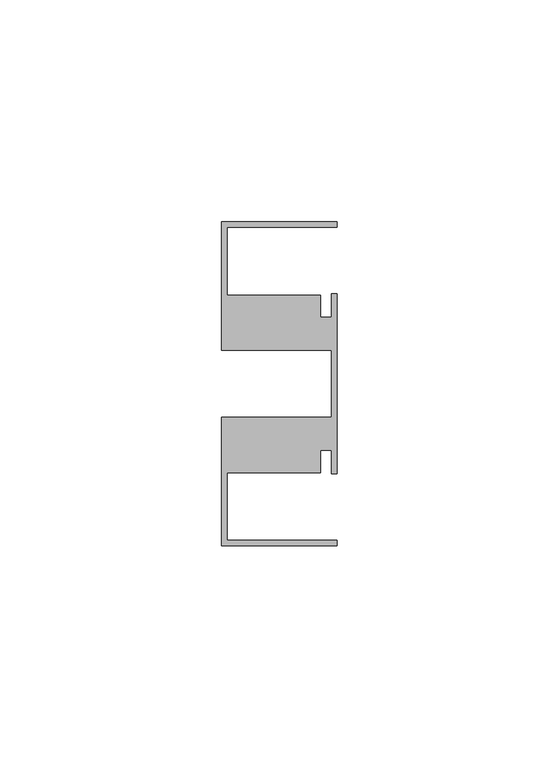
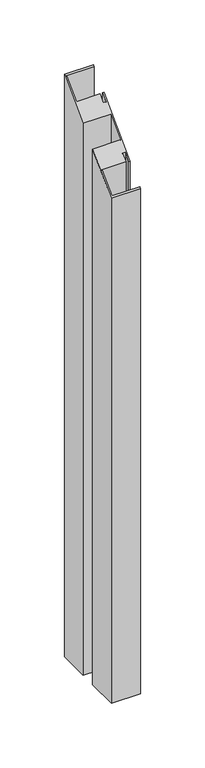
"""IFC4 building model written with IfcOpenShell, lengths in millimetres: member geometry, Прямоугольный импост : 9-AMG-1-Профиль 26Х73 Низ Л."""

import ifcopenshell
import ifcopenshell.guid

model = None  # the IFC model being written
_history = None  # IfcOwnerHistory: only IFC2X3 demands one
_inside = {}  # id of a spatial element -> (the spatial element, [elements in it])
_under = {}  # id of a project, library or spatial element -> (it, [spatial elements below it])
_declared = {}  # id of a project -> (the project, [libraries it declares])
_typed = {}  # id of a type object -> (the type object, [elements of that type])
_made_of = {}  # id of a material, layer set ... -> (it, [elements and type objects made of it])


def new_model(schema):
    """Start an empty IFC model of exactly this schema.

    Asked for "IFC4X3", IfcOpenShell would pick the latest addendum, in which some entities
    have other attributes; the version numbers below select the first issue.
    IFC2X3 requires an IfcOwnerHistory on every rooted entity: one is made here for all.
    """
    global model, _history
    if schema == "IFC4X3":
        model = ifcopenshell.file(schema_version=(4, 3, 0, 0))
    else:
        model = ifcopenshell.file(schema=schema)
    _inside.clear()
    _under.clear()
    _declared.clear()
    _typed.clear()
    _made_of.clear()
    _history = None
    if model.schema == "IFC2X3":
        org = make("IfcOrganization", Name="unknown")
        user = make(
            "IfcPersonAndOrganization",
            ThePerson=make("IfcPerson", FamilyName="unknown"),
            TheOrganization=org,
        )
        app = make(
            "IfcApplication",
            ApplicationDeveloper=org,
            Version="unknown",
            ApplicationFullName="unknown",
            ApplicationIdentifier="unknown",
        )
        _history = make(
            "IfcOwnerHistory",
            OwningUser=user,
            OwningApplication=app,
            ChangeAction="ADDED",
            CreationDate=0,
        )
    return model


def make(cls, **values):
    """One entity of the class cls with the attributes given. An attribute that is None is left unset."""
    return model.create_entity(
        cls, **{name: value for name, value in values.items() if value is not None}
    )


def rooted(cls, **values):
    """An entity with a GlobalId (a new one), such as an element, a storey or a relation."""
    return make(cls, GlobalId=ifcopenshell.guid.new(), OwnerHistory=_history, **values)


def si_unit(unit_type, name, prefix=None):
    """IfcSIUnit, for example si_unit("LENGTHUNIT", "METRE", prefix="MILLI")."""
    return make("IfcSIUnit", UnitType=unit_type, Prefix=prefix, Name=name)


def assignment(units):
    """IfcUnitAssignment: the units of a project."""
    return None if units is None else make("IfcUnitAssignment", Units=units)


def point(xyz):
    """IfcCartesianPoint."""
    return None if xyz is None else make("IfcCartesianPoint", Coordinates=xyz)


def direction(xyz):
    """IfcDirection."""
    return None if xyz is None else make("IfcDirection", DirectionRatios=xyz)


def frame(location, z_axis=None, x_axis=None):
    """IfcAxis2Placement3D, a coordinate frame: its origin and axes. An axis left out is left unset."""
    return make(
        "IfcAxis2Placement3D",
        Location=point(location),
        Axis=direction(z_axis),
        RefDirection=direction(x_axis),
    )


def origin():
    """The frame at (0, 0, 0) with its axes left unset."""
    return frame((0.0, 0.0, 0.0))


def place(relative_to, where):
    """IfcLocalPlacement: puts the frame where relative to a parent placement (None: the world)."""
    return make(
        "IfcLocalPlacement", PlacementRelTo=relative_to, RelativePlacement=where
    )


def context(
    kind, dimensions, precision=None, world=None, true_north=None, identifier=None
):
    """IfcGeometricRepresentationContext, for example the 3D "Model" context."""
    return make(
        "IfcGeometricRepresentationContext",
        ContextIdentifier=identifier,
        ContextType=kind,
        CoordinateSpaceDimension=dimensions,
        Precision=precision,
        WorldCoordinateSystem=world,
        TrueNorth=true_north,
    )


def project(units=None, contexts=None):
    """IfcProject with its units and contexts."""
    return rooted(
        "IfcProject",
        Name="project",
        RepresentationContexts=contexts,
        UnitsInContext=assignment(units),
    )


def spatial(cls, under=None, at=None, **own):
    """A site, building, storey or space (cls), placed at a placement, below another one or the project."""
    s = rooted(cls, ObjectPlacement=at, **own)
    if under is not None:
        _under.setdefault(under.id(), (under, []))[1].append(s)
    return s


def faces_of(points, faces, orient=None, outer=None):
    """IfcFace entities. A face is a list of loops; a loop is a list of indices into points, from 0.

    orient and outer hold one flag for each loop. By default every Orientation is true, the
    first loop of a face is its IfcFaceOuterBound and the others are IfcFaceBound.
    """
    made = []
    for i, loops in enumerate(faces):
        bounds = []
        for j, loop in enumerate(loops):
            is_outer = j == 0 if outer is None else outer[i][j]
            bounds.append(
                make(
                    "IfcFaceOuterBound" if is_outer else "IfcFaceBound",
                    Bound=make("IfcPolyLoop", Polygon=[points[k] for k in loop]),
                    Orientation=True if orient is None else orient[i][j],
                )
            )
        made.append(make("IfcFace", Bounds=bounds))
    return made


def faceted_brep(points, faces, orient=None, outer=None, voids=None):
    """IfcFacetedBrep: a solid bounded by flat faces; with voids (closed shells), ...WithVoids."""
    shared = [point(p) for p in points]
    hull = make("IfcClosedShell", CfsFaces=faces_of(shared, faces, orient, outer))
    if voids is None:
        return make("IfcFacetedBrep", Outer=hull)
    return make(
        "IfcFacetedBrepWithVoids",
        Outer=hull,
        Voids=[
            make(cls, CfsFaces=faces_of(shared, fs, o, b)) for cls, fs, o, b in voids
        ],
    )


def shape(context_of_items, identifier, shape_type, items):
    """IfcShapeRepresentation: the items that make up one representation, for example the "Body"."""
    return make(
        "IfcShapeRepresentation",
        ContextOfItems=context_of_items,
        RepresentationIdentifier=identifier,
        RepresentationType=shape_type,
        Items=items,
    )


def source(mapping_origin, context_of_items, identifier, shape_type, items):
    """IfcRepresentationMap: a shape defined once, which mapped items show again and again."""
    return make(
        "IfcRepresentationMap",
        MappingOrigin=mapping_origin,
        MappedRepresentation=shape(context_of_items, identifier, shape_type, items),
    )


def transform(
    local_origin,
    x_axis=None,
    y_axis=None,
    z_axis=None,
    scale=None,
    scale2=None,
    scale3=None,
    uniform=True,
):
    """IfcCartesianTransformationOperator3D, or its non-uniform kind. x_axis, y_axis, z_axis: its Axis1, 2, 3."""
    if uniform:
        return make(
            "IfcCartesianTransformationOperator3D",
            Axis1=direction(x_axis),
            Axis2=direction(y_axis),
            LocalOrigin=point(local_origin),
            Scale=scale,
            Axis3=direction(z_axis),
        )
    return make(
        "IfcCartesianTransformationOperator3DnonUniform",
        Axis1=direction(x_axis),
        Axis2=direction(y_axis),
        LocalOrigin=point(local_origin),
        Scale=scale,
        Axis3=direction(z_axis),
        Scale2=scale2,
        Scale3=scale3,
    )


def mapped(mapping_source, mapping_target):
    """IfcMappedItem: shows the shape of a source again, moved by a transform."""
    return make(
        "IfcMappedItem", MappingSource=mapping_source, MappingTarget=mapping_target
    )


def made_of(thing, what):
    """Note that an element or type object is made of a material, layer set ...; save() writes the relation."""
    if what is not None:
        _made_of.setdefault(what.id(), (what, []))[1].append(thing)
    return thing


def element(
    cls,
    number,
    at=None,
    inside=None,
    cuts=None,
    type_object=None,
    material=None,
    context=None,
    identifier="Body",
    shape_type=None,
    held_by="IfcProductDefinitionShape",
    body=None,
    shapes=None,
    **own,
):
    """One element of the class cls, such as IfcWall. Its Tag is "e" and its number.

    at: its placement. inside: the storey or other place that contains it. cuts: it is an
    opening in that element (IfcRelVoidsElement). A single representation is given by context,
    identifier, shape_type and body (its items); several are given by shapes. held_by: the class
    of the entity that holds the representations. save() writes the other relations.
    """
    e = rooted(cls, Tag="e%d" % number, ObjectPlacement=at, **own)
    if body is not None:
        shapes = [shape(context, identifier, shape_type, body)]
    if shapes is not None:
        e.Representation = make(held_by, Representations=shapes)
    if inside is not None:
        _inside.setdefault(inside.id(), (inside, []))[1].append(e)
    if cuts is not None:
        rooted(
            "IfcRelVoidsElement", RelatingBuildingElement=cuts, RelatedOpeningElement=e
        )
    if type_object is not None:
        _typed.setdefault(type_object.id(), (type_object, []))[1].append(e)
    return made_of(e, material)


def aggregate(whole, parts):
    """IfcRelAggregates: a whole, such as a stair, and the parts it consists of."""
    return rooted("IfcRelAggregates", RelatingObject=whole, RelatedObjects=parts)


def save(model, path):
    """Write the relations noted so far, then the file.

    IfcRelAggregates (storeys below a building ...), IfcRelContainedInSpatialStructure (elements
    in a storey), IfcRelDefinesByType, IfcRelAssociatesMaterial and IfcRelDeclares: one each for
    every whole, place, type object, material and project.
    """
    for whole, parts in _under.values():
        aggregate(whole, parts)
    for where, things in _inside.values():
        rooted(
            "IfcRelContainedInSpatialStructure",
            RelatedElements=things,
            RelatingStructure=where,
        )
    for kind, things in _typed.values():
        rooted("IfcRelDefinesByType", RelatedObjects=things, RelatingType=kind)
    for what, things in _made_of.values():
        rooted("IfcRelAssociatesMaterial", RelatedObjects=things, RelatingMaterial=what)
    for by, libraries in _declared.values():
        rooted("IfcRelDeclares", RelatingContext=by, RelatedDefinitions=libraries)
    model.write(path)


def member_ffc32b5f(model_context):
    return source(origin(), model_context, "Body", "Brep", [
        faceted_brep([(-26.0, 36.5, -514.0), (0.0, 36.5, -514.0), (0.0, 35.3, -514.0), (-24.8, 35.3, -514.0), (-24.8, 20.0, -514.0), (-3.7, 20.0, -514.0), (-3.7, 14.95, -514.0), (-1.2, 14.95, -514.0), (-1.2, 20.3007529, -514.0), (0.0, 20.3007529, -514.0), (0.0, -20.3007529, -514.0), (-1.2, -20.3007529, -514.0), (-1.2, -14.95, -514.0), (-3.7, -14.95, -514.0), (-3.7, -20.0, -514.0), (-24.8, -20.0, -514.0), (-24.8, -35.3, -514.0), (0.0, -35.3, -514.0), (0.0, -36.5, -514.0), (-26.0, -36.5, -514.0), (-26.0, -7.5116043, -514.0), (-1.2, -7.5116043, -514.0), (-1.2, 7.5116043, -514.0), (-26.0, 7.5116043, -514.0), (-26.0, 7.5116043, 7.5116043), (-26.0, 36.5, 36.5), (-1.2, 7.5116043, 7.5116043), (-1.2, -7.5116043, -7.5116043), (-26.0, -7.5116043, -7.5116043), (-26.0, -36.5, -36.5), (0.0, -36.5, -36.5), (0.0, -35.3, -35.3), (-24.8, -35.3, -35.3), (-24.8, -20.0, -20.0), (-3.7, -20.0, -20.0), (-3.7, -14.95, -14.95), (-1.2, -14.95, -14.95), (-1.2, -20.3007529, -20.3007529), (0.0, -20.3007529, -20.3007529), (0.0, 20.3007529, 20.3007529), (-1.2, 20.3007529, 20.3007529), (-1.2, 14.95, 14.95), (-3.7, 14.95, 14.95), (-3.7, 20.0, 20.0), (-24.8, 20.0, 20.0), (-24.8, 35.3, 35.3), (0.0, 35.3, 35.3), (0.0, 36.5, 36.5)], [[[0, 1, 2, 3, 4, 5, 6, 7, 8, 9, 10, 11, 12, 13, 14, 15, 16, 17, 18, 19, 20, 21, 22, 23]], [[24, 25, 0, 23]], [[26, 24, 23, 22]], [[27, 26, 22, 21]], [[28, 27, 21, 20]], [[29, 28, 20, 19]], [[30, 29, 19, 18]], [[31, 30, 18, 17]], [[32, 31, 17, 16]], [[33, 32, 16, 15]], [[34, 33, 15, 14]], [[35, 34, 14, 13]], [[36, 35, 13, 12]], [[37, 36, 12, 11]], [[38, 37, 11, 10]], [[39, 38, 10, 9]], [[40, 39, 9, 8]], [[41, 40, 8, 7]], [[42, 41, 7, 6]], [[43, 42, 6, 5]], [[44, 43, 5, 4]], [[45, 44, 4, 3]], [[46, 45, 3, 2]], [[47, 46, 2, 1]], [[25, 47, 1, 0]], [[25, 24, 26, 27, 28, 29, 30, 31, 32, 33, 34, 35, 36, 37, 38, 39, 40, 41, 42, 43, 44, 45, 46, 47]]]),
    ])


if __name__ == "__main__":
    model = new_model("IFC4")
    model_context = context("Model", 3, world=origin())
    ifc_project = project(units=[si_unit("LENGTHUNIT", "METRE", prefix="MILLI")], contexts=[model_context])
    site = spatial("IfcSite", under=ifc_project)
    building = spatial("IfcBuilding", under=site)
    placement = place(None, origin())
    member_shape = member_ffc32b5f(model_context)
    element("IfcMember", 1, ObjectType="Прямоугольный импост : 9-AMG-1-Профиль 26Х73 Низ Л", at=placement, inside=building, context=model_context, shape_type="MappedRepresentation", body=[
        mapped(member_shape, transform((0.0, 0.0, 0.0), x_axis=(1.0, 0.0, 0.0), y_axis=(0.0, 1.0, 0.0), z_axis=(0.0, 0.0, 1.0))),
    ])
    save(model, "model.ifc")
